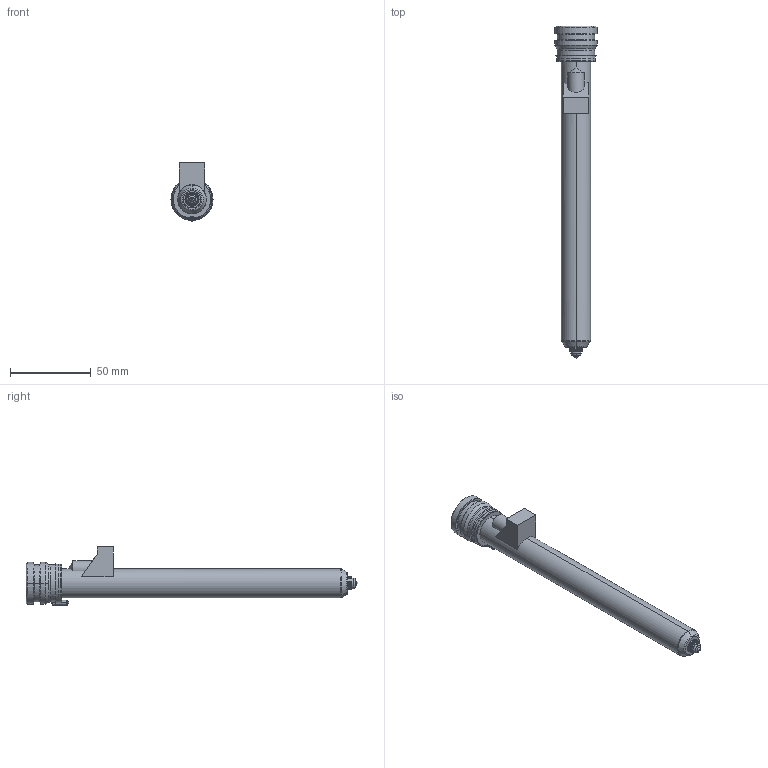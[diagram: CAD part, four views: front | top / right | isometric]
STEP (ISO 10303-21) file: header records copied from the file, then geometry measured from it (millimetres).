
FILE_DESCRIPTION((''),'2;1');
FILE_NAME('TH18187_5-M-1B15-PK-JG','2023-12-14T',('umhib'),('Thermoplay S.p.A.'),'PRO/ENGINEER BY PARAMETRIC TECHNOLOGY CORPORATION, 2017170','PRO/ENGINEER BY PARAMETRIC TECHNOLOGY CORPORATION, 2017170','');
FILE_SCHEMA(('CONFIG_CONTROL_DESIGN'));
Length unit declared in the file: millimetre
Products named in the file (1): TH18187_5-M-1B15-PK-JG
Bounding box: 26 x 205.5 x 36.1 mm (x, y, z)
Volume: 40523.5 mm3; surface area: 30452.4 mm2
Topology: 1 solids, 2 shells, 393 faces, 1003 edges, 615 vertices
Faces by surface type: cylinder 149, plane 87, cone 64, torus 58, bspline 22, sphere 11, extrusion 2
Entity records: 16871 total; most frequent: CARTESIAN_POINT 5188, DIRECTION 2010, ORIENTED_EDGE 1980, EDGE_CURVE 992, AXIS2_PLACEMENT_3D 810, VERTEX_POINT 615, CIRCLE 440, EDGE_LOOP 416
